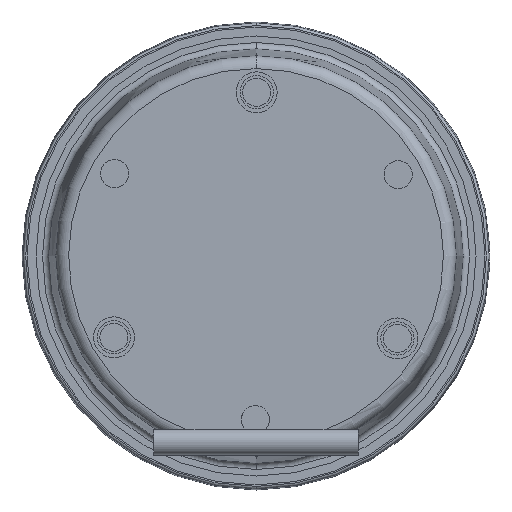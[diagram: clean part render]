
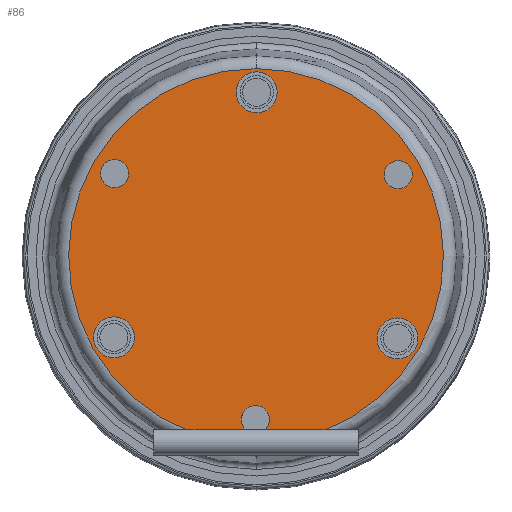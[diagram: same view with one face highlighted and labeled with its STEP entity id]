
A CAD part, front view. The second image highlights one B-rep face of the part: STEP entity #86.
In plain terms, the highlighted planar face has unit normal (0, -1, 0).
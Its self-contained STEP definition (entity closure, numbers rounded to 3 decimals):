
#34 = VERTEX_POINT ( 'NONE', #60 ) ;
#38 = EDGE_LOOP ( 'NONE', ( #351, #1985 ) ) ;
#43 = DIRECTION ( 'NONE',  ( 0., -1., 0. ) ) ;
#45 = CIRCLE ( 'NONE', #580, 8. ) ;
#48 = EDGE_CURVE ( 'NONE', #1722, #905, #2378, .T. ) ;
#60 = CARTESIAN_POINT ( 'NONE',  ( -9.32, -142.105, 109.604 ) ) ;
#81 = CARTESIAN_POINT ( 'NONE',  ( -12.436, -142.105, 114.137 ) ) ;
#86 = ADVANCED_FACE ( 'NONE', ( #758, #152, #211, #687, #2156, #852 ), #1051, .T. ) ;
#116 = CARTESIAN_POINT ( 'NONE',  ( 27.819, -142.105, 109.604 ) ) ;
#138 = VERTEX_POINT ( 'NONE', #717 ) ;
#139 = CARTESIAN_POINT ( 'NONE',  ( -11.926, -142.105, 242.136 ) ) ;
#142 = CARTESIAN_POINT ( 'NONE',  ( 13.697, -142.105, 109.604 ) ) ;
#147 = AXIS2_PLACEMENT_3D ( 'NONE', #2200, #615, #1229 ) ;
#152 = FACE_BOUND ( 'NONE', #1224, .T. ) ;
#159 = DIRECTION ( 'NONE',  ( 0., 0., -1. ) ) ;
#195 = AXIS2_PLACEMENT_3D ( 'NONE', #1398, #1979, #1184 ) ;
#211 = FACE_BOUND ( 'NONE', #1929, .T. ) ;
#219 = ORIENTED_EDGE ( 'NONE', *, *, #1555, .F. ) ;
#295 = CIRCLE ( 'NONE', #1780, 5.5 ) ;
#308 = AXIS2_PLACEMENT_3D ( 'NONE', #2555, #1364, #159 ) ;
#314 = CARTESIAN_POINT ( 'NONE',  ( -67.479, -142.105, 210.356 ) ) ;
#317 = EDGE_CURVE ( 'NONE', #1336, #138, #45, .T. ) ;
#321 = ORIENTED_EDGE ( 'NONE', *, *, #1404, .F. ) ;
#342 = VERTEX_POINT ( 'NONE', #2371 ) ;
#351 = ORIENTED_EDGE ( 'NONE', *, *, #2406, .F. ) ;
#356 = LINE ( 'NONE', #1706, #1489 ) ;
#362 = EDGE_LOOP ( 'NONE', ( #2570, #2328, #1898, #1443, #1233, #923 ) ) ;
#370 = AXIS2_PLACEMENT_3D ( 'NONE', #1124, #1729, #1746 ) ;
#372 = DIRECTION ( 'NONE',  ( 0., -1., 0. ) ) ;
#413 = CIRCLE ( 'NONE', #1008, 5.5 ) ;
#430 = DIRECTION ( 'NONE',  ( 0., -1., 0. ) ) ;
#433 = CARTESIAN_POINT ( 'NONE',  ( -67.733, -142.105, 154.357 ) ) ;
#440 = CARTESIAN_POINT ( 'NONE',  ( -12.181, -142.105, 178.136 ) ) ;
#519 = CARTESIAN_POINT ( 'NONE',  ( 43.117, -142.105, 145.916 ) ) ;
#529 = AXIS2_PLACEMENT_3D ( 'NONE', #139, #1728, #2129 ) ;
#561 = DIRECTION ( 'NONE',  ( 0., -1., 0. ) ) ;
#574 = EDGE_CURVE ( 'NONE', #905, #342, #356, .T. ) ;
#580 = AXIS2_PLACEMENT_3D ( 'NONE', #2167, #372, #1191 ) ;
#594 = EDGE_CURVE ( 'NONE', #34, #630, #1755, .T. ) ;
#615 = DIRECTION ( 'NONE',  ( 0., -1., 0. ) ) ;
#624 = DIRECTION ( 'NONE',  ( 0., -1., 0. ) ) ;
#630 = VERTEX_POINT ( 'NONE', #142 ) ;
#641 = DIRECTION ( 'NONE',  ( 0., 0., -1. ) ) ;
#650 = DIRECTION ( 'NONE',  ( 0., 0., -1. ) ) ;
#668 = DIRECTION ( 'NONE',  ( 0., 0., -1. ) ) ;
#687 = FACE_BOUND ( 'NONE', #2319, .T. ) ;
#688 = CARTESIAN_POINT ( 'NONE',  ( -12.181, -142.105, 178.136 ) ) ;
#696 = CARTESIAN_POINT ( 'NONE',  ( -11.926, -142.105, 234.136 ) ) ;
#703 = CIRCLE ( 'NONE', #370, 73.255 ) ;
#717 = CARTESIAN_POINT ( 'NONE',  ( 43.117, -142.105, 137.916 ) ) ;
#725 = CARTESIAN_POINT ( 'NONE',  ( -67.479, -142.105, 204.856 ) ) ;
#751 = DIRECTION ( 'NONE',  ( 0., -1., 0. ) ) ;
#758 = FACE_BOUND ( 'NONE', #38, .T. ) ;
#784 = VECTOR ( 'NONE', #1907, 1000. ) ;
#788 = AXIS2_PLACEMENT_3D ( 'NONE', #688, #43, #886 ) ;
#791 = AXIS2_PLACEMENT_3D ( 'NONE', #81, #2485, #2066 ) ;
#803 = EDGE_CURVE ( 'NONE', #2330, #2574, #1308, .T. ) ;
#804 = ORIENTED_EDGE ( 'NONE', *, *, #1337, .F. ) ;
#840 = VERTEX_POINT ( 'NONE', #2587 ) ;
#852 = FACE_OUTER_BOUND ( 'NONE', #362, .T. ) ;
#886 = DIRECTION ( 'NONE',  ( 0., 0., -1. ) ) ;
#905 = VERTEX_POINT ( 'NONE', #1040 ) ;
#923 = ORIENTED_EDGE ( 'NONE', *, *, #594, .T. ) ;
#942 = VERTEX_POINT ( 'NONE', #2236 ) ;
#978 = CARTESIAN_POINT ( 'NONE',  ( -12.181, -142.105, 251.391 ) ) ;
#1008 = AXIS2_PLACEMENT_3D ( 'NONE', #314, #561, #1524 ) ;
#1032 = CARTESIAN_POINT ( 'NONE',  ( 43.117, -142.105, 153.916 ) ) ;
#1040 = CARTESIAN_POINT ( 'NONE',  ( -38.059, -142.105, 109.604 ) ) ;
#1051 = PLANE ( 'NONE',  #2435 ) ;
#1053 = EDGE_LOOP ( 'NONE', ( #1571, #804 ) ) ;
#1067 = DIRECTION ( 'NONE',  ( 0., 0., -1. ) ) ;
#1078 = ORIENTED_EDGE ( 'NONE', *, *, #317, .F. ) ;
#1083 = EDGE_CURVE ( 'NONE', #840, #342, #1813, .T. ) ;
#1124 = CARTESIAN_POINT ( 'NONE',  ( -12.181, -142.105, 178.136 ) ) ;
#1164 = EDGE_CURVE ( 'NONE', #1677, #2333, #413, .T. ) ;
#1184 = DIRECTION ( 'NONE',  ( 0., 0., -1. ) ) ;
#1191 = DIRECTION ( 'NONE',  ( 0., 0., -1. ) ) ;
#1224 = EDGE_LOOP ( 'NONE', ( #1393, #321 ) ) ;
#1229 = DIRECTION ( 'NONE',  ( 0., 0., -1. ) ) ;
#1233 = ORIENTED_EDGE ( 'NONE', *, *, #1774, .F. ) ;
#1239 = ORIENTED_EDGE ( 'NONE', *, *, #1807, .F. ) ;
#1261 = EDGE_CURVE ( 'NONE', #1588, #942, #2552, .T. ) ;
#1294 = CARTESIAN_POINT ( 'NONE',  ( -67.479, -142.105, 215.856 ) ) ;
#1308 = CIRCLE ( 'NONE', #1521, 8. ) ;
#1336 = VERTEX_POINT ( 'NONE', #1032 ) ;
#1337 = EDGE_CURVE ( 'NONE', #942, #1588, #295, .T. ) ;
#1353 = CIRCLE ( 'NONE', #2193, 8. ) ;
#1364 = DIRECTION ( 'NONE',  ( 0., -1., 0. ) ) ;
#1376 = AXIS2_PLACEMENT_3D ( 'NONE', #1844, #1850, #641 ) ;
#1393 = ORIENTED_EDGE ( 'NONE', *, *, #1871, .F. ) ;
#1398 = CARTESIAN_POINT ( 'NONE',  ( 43.372, -142.105, 209.915 ) ) ;
#1400 = DIRECTION ( 'NONE',  ( 0., -1., 0. ) ) ;
#1404 = EDGE_CURVE ( 'NONE', #2145, #1954, #2369, .T. ) ;
#1411 = AXIS2_PLACEMENT_3D ( 'NONE', #519, #751, #2529 ) ;
#1431 = DIRECTION ( 'NONE',  ( 0., -1., 0. ) ) ;
#1443 = ORIENTED_EDGE ( 'NONE', *, *, #1083, .F. ) ;
#1489 = VECTOR ( 'NONE', #2123, 1000. ) ;
#1507 = CIRCLE ( 'NONE', #308, 5.5 ) ;
#1513 = CIRCLE ( 'NONE', #529, 8. ) ;
#1521 = AXIS2_PLACEMENT_3D ( 'NONE', #1974, #1400, #2593 ) ;
#1524 = DIRECTION ( 'NONE',  ( 0., 0., -1. ) ) ;
#1546 = CIRCLE ( 'NONE', #1411, 8. ) ;
#1555 = EDGE_CURVE ( 'NONE', #138, #1336, #1546, .T. ) ;
#1564 = CARTESIAN_POINT ( 'NONE',  ( -67.733, -142.105, 138.357 ) ) ;
#1568 = EDGE_CURVE ( 'NONE', #630, #1722, #703, .T. ) ;
#1571 = ORIENTED_EDGE ( 'NONE', *, *, #1261, .F. ) ;
#1588 = VERTEX_POINT ( 'NONE', #1710 ) ;
#1677 = VERTEX_POINT ( 'NONE', #725 ) ;
#1706 = CARTESIAN_POINT ( 'NONE',  ( 27.819, -142.105, 109.604 ) ) ;
#1710 = CARTESIAN_POINT ( 'NONE',  ( 43.372, -142.105, 215.415 ) ) ;
#1722 = VERTEX_POINT ( 'NONE', #978 ) ;
#1728 = DIRECTION ( 'NONE',  ( 0., -1., 0. ) ) ;
#1729 = DIRECTION ( 'NONE',  ( 0., -1., 0. ) ) ;
#1746 = DIRECTION ( 'NONE',  ( 0., 0., -1. ) ) ;
#1755 = LINE ( 'NONE', #116, #784 ) ;
#1774 = EDGE_CURVE ( 'NONE', #34, #840, #1507, .T. ) ;
#1780 = AXIS2_PLACEMENT_3D ( 'NONE', #2420, #624, #650 ) ;
#1799 = CARTESIAN_POINT ( 'NONE',  ( -11.926, -142.105, 250.136 ) ) ;
#1807 = EDGE_CURVE ( 'NONE', #2333, #1677, #2477, .T. ) ;
#1813 = CIRCLE ( 'NONE', #791, 5.5 ) ;
#1844 = CARTESIAN_POINT ( 'NONE',  ( -67.733, -142.105, 146.357 ) ) ;
#1850 = DIRECTION ( 'NONE',  ( 0., -1., 0. ) ) ;
#1871 = EDGE_CURVE ( 'NONE', #1954, #2145, #1353, .T. ) ;
#1898 = ORIENTED_EDGE ( 'NONE', *, *, #574, .T. ) ;
#1907 = DIRECTION ( 'NONE',  ( 1., 0., 0. ) ) ;
#1929 = EDGE_LOOP ( 'NONE', ( #1078, #219 ) ) ;
#1954 = VERTEX_POINT ( 'NONE', #433 ) ;
#1974 = CARTESIAN_POINT ( 'NONE',  ( -11.926, -142.105, 242.136 ) ) ;
#1979 = DIRECTION ( 'NONE',  ( 0., -1., 0. ) ) ;
#1985 = ORIENTED_EDGE ( 'NONE', *, *, #803, .F. ) ;
#2066 = DIRECTION ( 'NONE',  ( 0., 0., -1. ) ) ;
#2123 = DIRECTION ( 'NONE',  ( 1., 0., 0. ) ) ;
#2129 = DIRECTION ( 'NONE',  ( 0., 0., -1. ) ) ;
#2145 = VERTEX_POINT ( 'NONE', #1564 ) ;
#2156 = FACE_BOUND ( 'NONE', #1053, .T. ) ;
#2167 = CARTESIAN_POINT ( 'NONE',  ( 43.117, -142.105, 145.916 ) ) ;
#2193 = AXIS2_PLACEMENT_3D ( 'NONE', #2471, #1431, #668 ) ;
#2200 = CARTESIAN_POINT ( 'NONE',  ( -67.479, -142.105, 210.356 ) ) ;
#2236 = CARTESIAN_POINT ( 'NONE',  ( 43.372, -142.105, 204.415 ) ) ;
#2319 = EDGE_LOOP ( 'NONE', ( #1239, #2394 ) ) ;
#2328 = ORIENTED_EDGE ( 'NONE', *, *, #48, .T. ) ;
#2330 = VERTEX_POINT ( 'NONE', #696 ) ;
#2333 = VERTEX_POINT ( 'NONE', #1294 ) ;
#2369 = CIRCLE ( 'NONE', #1376, 8. ) ;
#2371 = CARTESIAN_POINT ( 'NONE',  ( -15.551, -142.105, 109.604 ) ) ;
#2378 = CIRCLE ( 'NONE', #788, 73.255 ) ;
#2394 = ORIENTED_EDGE ( 'NONE', *, *, #1164, .F. ) ;
#2406 = EDGE_CURVE ( 'NONE', #2574, #2330, #1513, .T. ) ;
#2420 = CARTESIAN_POINT ( 'NONE',  ( 43.372, -142.105, 209.915 ) ) ;
#2435 = AXIS2_PLACEMENT_3D ( 'NONE', #440, #430, #1067 ) ;
#2471 = CARTESIAN_POINT ( 'NONE',  ( -67.733, -142.105, 146.357 ) ) ;
#2477 = CIRCLE ( 'NONE', #147, 5.5 ) ;
#2485 = DIRECTION ( 'NONE',  ( 0., -1., 0. ) ) ;
#2529 = DIRECTION ( 'NONE',  ( 0., 0., -1. ) ) ;
#2552 = CIRCLE ( 'NONE', #195, 5.5 ) ;
#2555 = CARTESIAN_POINT ( 'NONE',  ( -12.436, -142.105, 114.137 ) ) ;
#2570 = ORIENTED_EDGE ( 'NONE', *, *, #1568, .T. ) ;
#2574 = VERTEX_POINT ( 'NONE', #1799 ) ;
#2587 = CARTESIAN_POINT ( 'NONE',  ( -12.436, -142.105, 119.637 ) ) ;
#2593 = DIRECTION ( 'NONE',  ( 0., 0., -1. ) ) ;
